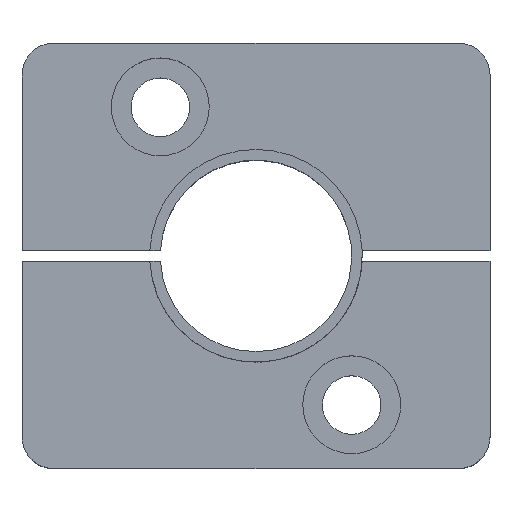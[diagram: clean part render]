
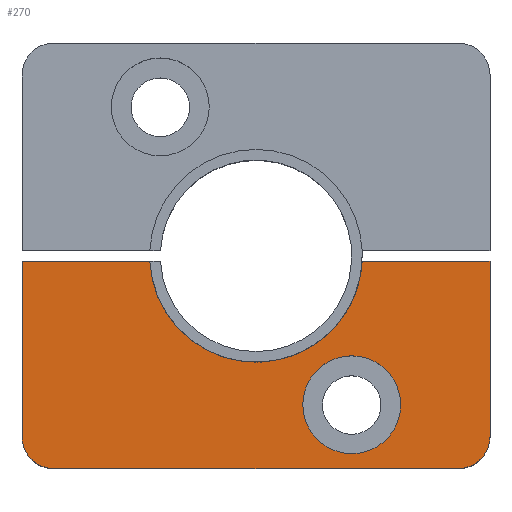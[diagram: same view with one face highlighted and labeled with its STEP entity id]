
A CAD part, top view. The second image highlights one B-rep face of the part: STEP entity #270.
In plain terms, the highlighted planar face has unit normal (0, 0, 1).
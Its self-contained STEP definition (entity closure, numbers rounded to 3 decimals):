
#270 = ADVANCED_FACE( '', ( #493, #494 ), #495, .T. );
#493 = FACE_BOUND( '', #725, .T. );
#494 = FACE_OUTER_BOUND( '', #726, .T. );
#495 = PLANE( '', #727 );
#725 = EDGE_LOOP( '', ( #1607, #1608 ) );
#726 = EDGE_LOOP( '', ( #1609, #1610, #1611, #1612, #1613, #1614, #1615, #1616 ) );
#727 = AXIS2_PLACEMENT_3D( '', #1617, #1618, #1619 );
#1607 = ORIENTED_EDGE( '', *, *, #1851, .T. );
#1608 = ORIENTED_EDGE( '', *, *, #1841, .T. );
#1609 = ORIENTED_EDGE( '', *, *, #1952, .T. );
#1610 = ORIENTED_EDGE( '', *, *, #1957, .T. );
#1611 = ORIENTED_EDGE( '', *, *, #1962, .T. );
#1612 = ORIENTED_EDGE( '', *, *, #1922, .T. );
#1613 = ORIENTED_EDGE( '', *, *, #1963, .T. );
#1614 = ORIENTED_EDGE( '', *, *, #1928, .T. );
#1615 = ORIENTED_EDGE( '', *, *, #1931, .T. );
#1616 = ORIENTED_EDGE( '', *, *, #1967, .T. );
#1617 = CARTESIAN_POINT( '', ( 0., 0., 10. ) );
#1618 = DIRECTION( '', ( 0., 0., 1. ) );
#1619 = DIRECTION( '', ( -1., 0., 0. ) );
#1841 = EDGE_CURVE( '', #2261, #2258, #2262, .T. );
#1851 = EDGE_CURVE( '', #2258, #2261, #2277, .T. );
#1922 = EDGE_CURVE( '', #2395, #2393, #2396, .T. );
#1928 = EDGE_CURVE( '', #2405, #2403, #2406, .T. );
#1931 = EDGE_CURVE( '', #2403, #2408, #2410, .T. );
#1952 = EDGE_CURVE( '', #2444, #2442, #2445, .T. );
#1957 = EDGE_CURVE( '', #2442, #2451, #2453, .T. );
#1962 = EDGE_CURVE( '', #2451, #2395, #2459, .T. );
#1963 = EDGE_CURVE( '', #2393, #2405, #2460, .T. );
#1967 = EDGE_CURVE( '', #2408, #2444, #2465, .T. );
#2258 = VERTEX_POINT( '', #2878 );
#2261 = VERTEX_POINT( '', #2882 );
#2262 = CIRCLE( '', #2883, 4.6 );
#2277 = CIRCLE( '', #2901, 4.6 );
#2393 = VERTEX_POINT( '', #3073 );
#2395 = VERTEX_POINT( '', #3076 );
#2396 = LINE( '', #3077, #3078 );
#2403 = VERTEX_POINT( '', #3089 );
#2405 = VERTEX_POINT( '', #3092 );
#2406 = LINE( '', #3093, #3094 );
#2408 = VERTEX_POINT( '', #3097 );
#2410 = CIRCLE( '', #3100, 3. );
#2442 = VERTEX_POINT( '', #3143 );
#2444 = VERTEX_POINT( '', #3146 );
#2445 = LINE( '', #3147, #3148 );
#2451 = VERTEX_POINT( '', #3157 );
#2453 = CIRCLE( '', #3160, 10. );
#2459 = LINE( '', #3169, #3170 );
#2460 = CIRCLE( '', #3171, 3. );
#2465 = LINE( '', #3178, #3179 );
#2878 = CARTESIAN_POINT( '', ( 9., -18.6, 10. ) );
#2882 = CARTESIAN_POINT( '', ( 9., -9.4, 10. ) );
#2883 = AXIS2_PLACEMENT_3D( '', #3481, #3482, #3483 );
#2901 = AXIS2_PLACEMENT_3D( '', #3505, #3506, #3507 );
#3073 = CARTESIAN_POINT( '', ( -22., -17., 10. ) );
#3076 = CARTESIAN_POINT( '', ( -22., -0.5, 10. ) );
#3077 = CARTESIAN_POINT( '', ( -22., -0.5, 10. ) );
#3078 = VECTOR( '', #3604, 1. );
#3089 = CARTESIAN_POINT( '', ( 19., -20., 10. ) );
#3092 = CARTESIAN_POINT( '', ( -19., -20., 10. ) );
#3093 = CARTESIAN_POINT( '', ( -19., -20., 10. ) );
#3094 = VECTOR( '', #3610, 1. );
#3097 = CARTESIAN_POINT( '', ( 22., -17., 10. ) );
#3100 = AXIS2_PLACEMENT_3D( '', #3613, #3614, #3615 );
#3143 = CARTESIAN_POINT( '', ( 9.987, -0.5, 10. ) );
#3146 = CARTESIAN_POINT( '', ( 22., -0.5, 10. ) );
#3147 = CARTESIAN_POINT( '', ( 22., -0.5, 10. ) );
#3148 = VECTOR( '', #3652, 1. );
#3157 = CARTESIAN_POINT( '', ( -9.987, -0.5, 10. ) );
#3160 = AXIS2_PLACEMENT_3D( '', #3657, #3658, #3659 );
#3169 = CARTESIAN_POINT( '', ( -9.987, -0.5, 10. ) );
#3170 = VECTOR( '', #3666, 1. );
#3171 = AXIS2_PLACEMENT_3D( '', #3667, #3668, #3669 );
#3178 = CARTESIAN_POINT( '', ( 22., -17., 10. ) );
#3179 = VECTOR( '', #3675, 1. );
#3481 = CARTESIAN_POINT( '', ( 9., -14., 10. ) );
#3482 = DIRECTION( '', ( 0., 0., -1. ) );
#3483 = DIRECTION( '', ( 0., -1., 0. ) );
#3505 = CARTESIAN_POINT( '', ( 9., -14., 10. ) );
#3506 = DIRECTION( '', ( 0., 0., -1. ) );
#3507 = DIRECTION( '', ( 0., -1., 0. ) );
#3604 = DIRECTION( '', ( 0., -1., 0. ) );
#3610 = DIRECTION( '', ( 1., 0., 0. ) );
#3613 = CARTESIAN_POINT( '', ( 19., -17., 10. ) );
#3614 = DIRECTION( '', ( 0., 0., 1. ) );
#3615 = DIRECTION( '', ( 0., -1., 0. ) );
#3652 = DIRECTION( '', ( -1., 0., 0. ) );
#3657 = CARTESIAN_POINT( '', ( 0., 0., 10. ) );
#3658 = DIRECTION( '', ( 0., 0., -1. ) );
#3659 = DIRECTION( '', ( 0.999, -0.05, 0. ) );
#3666 = DIRECTION( '', ( -1., 0., 0. ) );
#3667 = CARTESIAN_POINT( '', ( -19., -17., 10. ) );
#3668 = DIRECTION( '', ( 0., 0., 1. ) );
#3669 = DIRECTION( '', ( -1., 0., 0. ) );
#3675 = DIRECTION( '', ( 0., 1., 0. ) );
